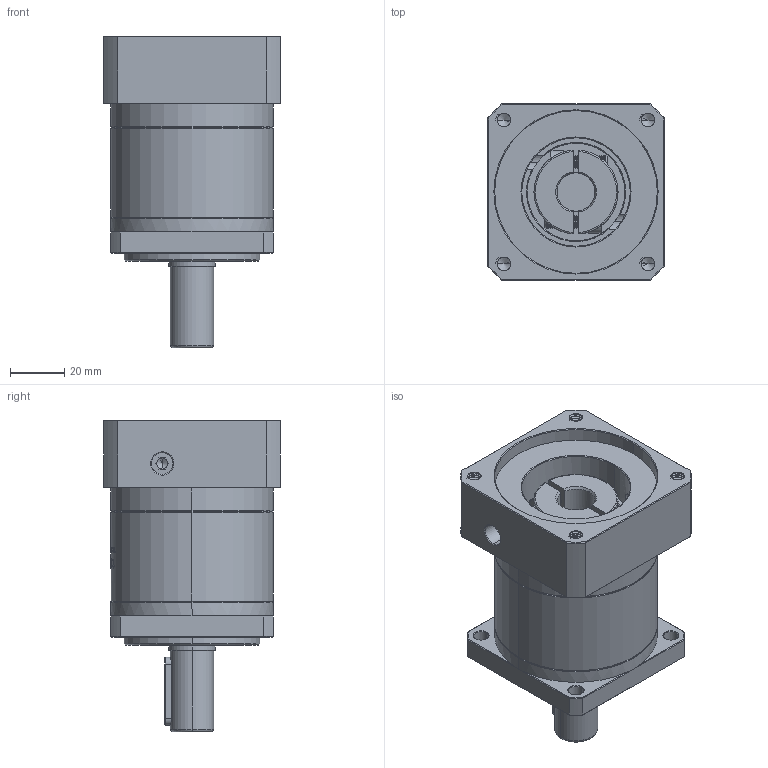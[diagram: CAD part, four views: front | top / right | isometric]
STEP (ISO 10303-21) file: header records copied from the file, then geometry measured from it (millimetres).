
FILE_DESCRIPTION (( 'STEP AP214' ), '1' );
FILE_NAME ('ZF60-D16-L1-14-60-75-M6.STEP', '2022-04-17T11:48:53', ( '' ), ( 'Microsoft' ), 'SwSTEP 2.0', 'SolidWorks 2016', '' );
FILE_SCHEMA (( 'AUTOMOTIVE_DESIGN' ));
Length unit declared in the file: millimetre
Products named in the file (1): ZF60-D16-L1-14-60-75-M6
Bounding box: 65 x 65 x 115 mm (x, y, z)
Volume: 234542.4 mm3; surface area: 47198.3 mm2
Topology: 6 solids, 6 shells, 1665 faces, 4489 edges, 2901 vertices
Faces by surface type: plane 749, cylinder 363, bspline 299, cone 236, torus 18
Entity records: 94611 total; most frequent: CARTESIAN_POINT 38317, ORIENTED_EDGE 8950, DIRECTION 6583, EDGE_CURVE 4475, VERTEX_POINT 2901, LINE 2281, VECTOR 2281, AXIS2_PLACEMENT_3D 2151
